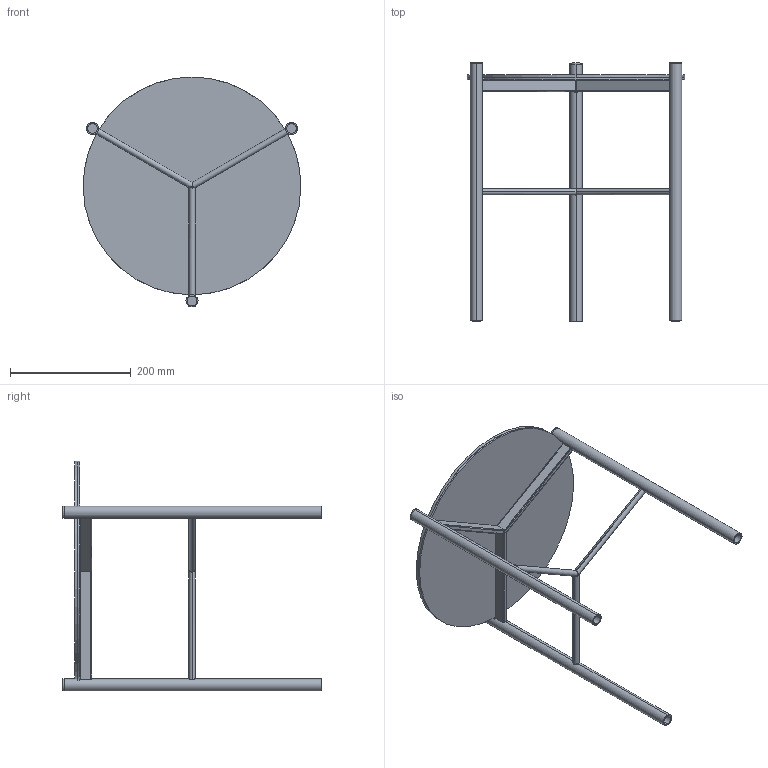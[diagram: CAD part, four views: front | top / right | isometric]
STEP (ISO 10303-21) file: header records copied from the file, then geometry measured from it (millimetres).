
FILE_DESCRIPTION (( 'STEP AP203' ), '1' );
FILE_NAME ('J501G.STEP', '2024-08-06T11:33:09', ( '' ), ( '' ), 'SwSTEP 2.0', 'SolidWorks 2022', '' );
FILE_SCHEMA (( 'CONFIG_CONTROL_DESIGN' ));
Length unit declared in the file: millimetre
Products named in the file (3): J501G; JXXXS00000000-00-jack metallo grezzo tutte le misure_J6B000001-JACK TAVOLINO D.36x41h<A macchina>; C1XCRMXX-00-piani Rotondi Cristallo_C15 D.36cm
Assembly tree (2 placements, depth 2):
  J501G
    JXXXS00000000-00-jack metallo grezzo tutte le misure_J6B000001-JACK TAVOLINO D.36x41h<A macchina>
    C1XCRMXX-00-piani Rotondi Cristallo_C15 D.36cm
Bounding box: 360 x 427 x 380.07 mm (x, y, z)
Volume: 1002808.3 mm3; surface area: 648678.4 mm2
Topology: 14 solids, 14 shells, 125 faces, 293 edges, 194 vertices
Faces by surface type: cylinder 73, plane 52
Entity records: 4516 total; most frequent: CARTESIAN_POINT 1449, ORIENTED_EDGE 586, DIRECTION 541, EDGE_CURVE 293, AXIS2_PLACEMENT_3D 196, VERTEX_POINT 194, LINE 149, VECTOR 149
